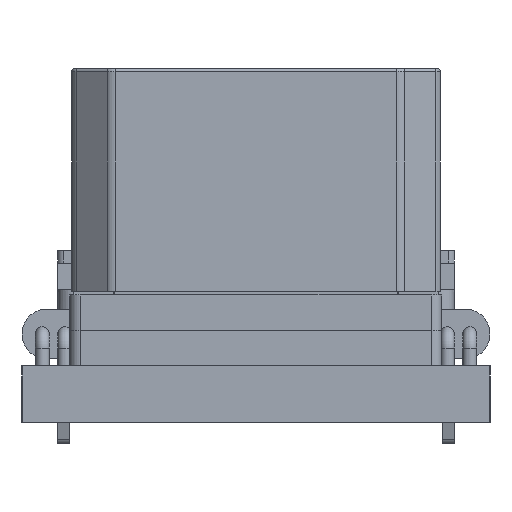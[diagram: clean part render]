
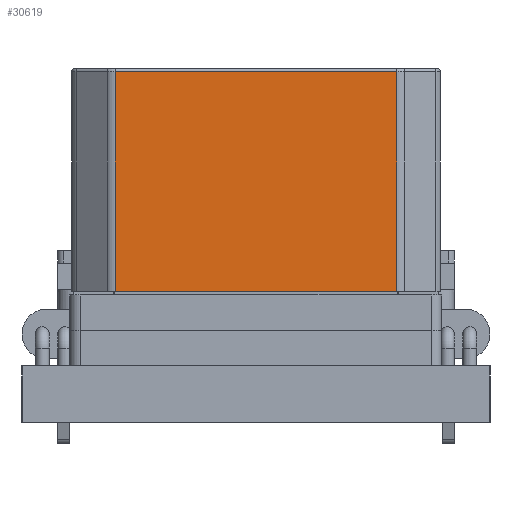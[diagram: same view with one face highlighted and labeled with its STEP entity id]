
A CAD part, front view. The second image highlights one B-rep face of the part: STEP entity #30619.
In plain terms, the highlighted planar face has unit normal (0, -1, 0) as drawn and (0, 1, 0) by its records, which use the part's own axes.
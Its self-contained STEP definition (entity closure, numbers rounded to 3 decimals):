
#29406 = VERTEX_POINT('',#29407);
#29407 = CARTESIAN_POINT('',(3.972,-3.,6.3));
#29414 = EDGE_CURVE('',#29415,#29406,#29417,.T.);
#29415 = VERTEX_POINT('',#29416);
#29416 = CARTESIAN_POINT('',(-3.972,-3.,6.3));
#29417 = LINE('',#29418,#29419);
#29418 = CARTESIAN_POINT('',(-4.1,-3.,6.3));
#29419 = VECTOR('',#29420,1.);
#29420 = DIRECTION('',(1.,0.,0.));
#30619 = ADVANCED_FACE('',(#30620),#30645,.F.);
#30620 = FACE_BOUND('',#30621,.T.);
#30621 = EDGE_LOOP('',(#30622,#30630,#30638,#30644));
#30622 = ORIENTED_EDGE('',*,*,#30623,.T.);
#30623 = EDGE_CURVE('',#29406,#30624,#30626,.T.);
#30624 = VERTEX_POINT('',#30625);
#30625 = CARTESIAN_POINT('',(3.972,-3.,0.1));
#30626 = LINE('',#30627,#30628);
#30627 = CARTESIAN_POINT('',(3.972,-3.,0.));
#30628 = VECTOR('',#30629,1.);
#30629 = DIRECTION('',(0.,0.,-1.));
#30630 = ORIENTED_EDGE('',*,*,#30631,.T.);
#30631 = EDGE_CURVE('',#30624,#30632,#30634,.T.);
#30632 = VERTEX_POINT('',#30633);
#30633 = CARTESIAN_POINT('',(-3.972,-3.,0.1));
#30634 = LINE('',#30635,#30636);
#30635 = CARTESIAN_POINT('',(-3.972,-3.,0.1));
#30636 = VECTOR('',#30637,1.);
#30637 = DIRECTION('',(-1.,0.,0.));
#30638 = ORIENTED_EDGE('',*,*,#30639,.T.);
#30639 = EDGE_CURVE('',#30632,#29415,#30640,.T.);
#30640 = LINE('',#30641,#30642);
#30641 = CARTESIAN_POINT('',(-3.972,-3.,0.));
#30642 = VECTOR('',#30643,1.);
#30643 = DIRECTION('',(0.,0.,1.));
#30644 = ORIENTED_EDGE('',*,*,#29414,.T.);
#30645 = PLANE('',#30646);
#30646 = AXIS2_PLACEMENT_3D('',#30647,#30648,#30649);
#30647 = CARTESIAN_POINT('',(-4.1,-3.,0.));
#30648 = DIRECTION('',(0.,-1.,0.));
#30649 = DIRECTION('',(0.,0.,-1.));
